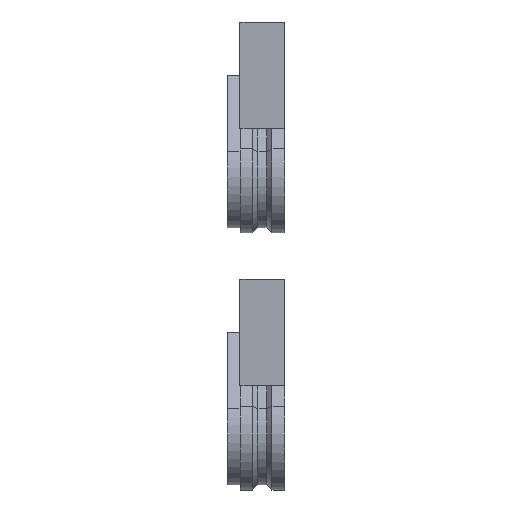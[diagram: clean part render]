
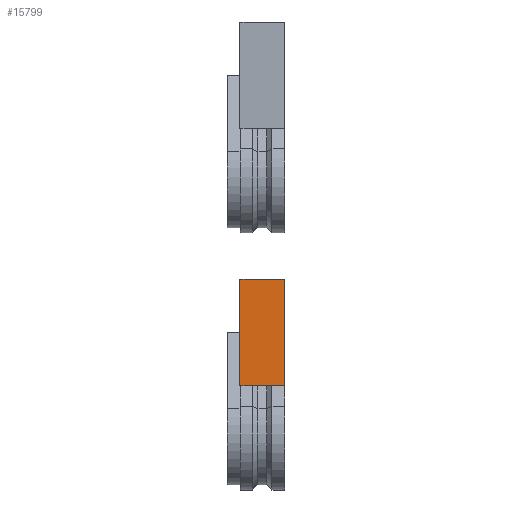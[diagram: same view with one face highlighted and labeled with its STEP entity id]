
A CAD part, left-side view. The second image highlights one B-rep face of the part: STEP entity #15799.
In plain terms, the highlighted planar face has unit normal (-1, 0, 0).
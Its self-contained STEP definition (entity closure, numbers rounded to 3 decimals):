
#11456 = PLANE('',#11457);
#11457 = AXIS2_PLACEMENT_3D('',#11458,#11459,#11460);
#11458 = CARTESIAN_POINT('',(-12.,25.,-12.5));
#11459 = DIRECTION('',(0.,1.,0.));
#11460 = DIRECTION('',(1.,0.,-0.));
#12016 = VERTEX_POINT('',#12017);
#12017 = CARTESIAN_POINT('',(-16.35,25.,-8.748));
#12031 = PLANE('',#12032);
#12032 = AXIS2_PLACEMENT_3D('',#12033,#12034,#12035);
#12033 = CARTESIAN_POINT('',(-16.35,25.,-8.748));
#12034 = DIRECTION('',(0.,0.,1.));
#12035 = DIRECTION('',(1.,0.,-0.));
#12043 = EDGE_CURVE('',#12044,#12016,#12046,.T.);
#12044 = VERTEX_POINT('',#12045);
#12045 = CARTESIAN_POINT('',(-16.35,25.,-0.448));
#12046 = SURFACE_CURVE('',#12047,(#12051,#12058),.PCURVE_S1.);
#12047 = LINE('',#12048,#12049);
#12048 = CARTESIAN_POINT('',(-16.35,25.,-0.448));
#12049 = VECTOR('',#12050,1.);
#12050 = DIRECTION('',(0.,0.,-1.));
#12051 = PCURVE('',#11456,#12052);
#12052 = DEFINITIONAL_REPRESENTATION('',(#12053),#12057);
#12053 = LINE('',#12054,#12055);
#12054 = CARTESIAN_POINT('',(-4.35,-12.052));
#12055 = VECTOR('',#12056,1.);
#12056 = DIRECTION('',(0.,1.));
#12057 = ( GEOMETRIC_REPRESENTATION_CONTEXT(2) 
PARAMETRIC_REPRESENTATION_CONTEXT() REPRESENTATION_CONTEXT('2D SPACE',''
  ) );
#12058 = PCURVE('',#12059,#12064);
#12059 = PLANE('',#12060);
#12060 = AXIS2_PLACEMENT_3D('',#12061,#12062,#12063);
#12061 = CARTESIAN_POINT('',(-16.35,25.,-8.748));
#12062 = DIRECTION('',(1.,0.,-0.));
#12063 = DIRECTION('',(0.,0.,1.));
#12064 = DEFINITIONAL_REPRESENTATION('',(#12065),#12069);
#12065 = LINE('',#12066,#12067);
#12066 = CARTESIAN_POINT('',(8.3,0.));
#12067 = VECTOR('',#12068,1.);
#12068 = DIRECTION('',(-1.,0.));
#12069 = ( GEOMETRIC_REPRESENTATION_CONTEXT(2) 
PARAMETRIC_REPRESENTATION_CONTEXT() REPRESENTATION_CONTEXT('2D SPACE',''
  ) );
#12087 = PLANE('',#12088);
#12088 = AXIS2_PLACEMENT_3D('',#12089,#12090,#12091);
#12089 = CARTESIAN_POINT('',(-16.35,25.,-0.448));
#12090 = DIRECTION('',(0.,0.,1.));
#12091 = DIRECTION('',(1.,0.,-0.));
#12174 = PLANE('',#12175);
#12175 = AXIS2_PLACEMENT_3D('',#12176,#12177,#12178);
#12176 = CARTESIAN_POINT('',(-9.85,28.5,-8.748));
#12177 = DIRECTION('',(-0.,1.,0.));
#12178 = DIRECTION('',(0.,0.,1.));
#13186 = VERTEX_POINT('',#13187);
#13187 = CARTESIAN_POINT('',(-16.35,28.5,-8.748));
#13208 = EDGE_CURVE('',#13186,#13209,#13211,.T.);
#13209 = VERTEX_POINT('',#13210);
#13210 = CARTESIAN_POINT('',(-16.35,28.5,-0.448));
#13211 = SURFACE_CURVE('',#13212,(#13216,#13223),.PCURVE_S1.);
#13212 = LINE('',#13213,#13214);
#13213 = CARTESIAN_POINT('',(-16.35,28.5,-8.748));
#13214 = VECTOR('',#13215,1.);
#13215 = DIRECTION('',(0.,0.,1.));
#13216 = PCURVE('',#12174,#13217);
#13217 = DEFINITIONAL_REPRESENTATION('',(#13218),#13222);
#13218 = LINE('',#13219,#13220);
#13219 = CARTESIAN_POINT('',(0.,-6.5));
#13220 = VECTOR('',#13221,1.);
#13221 = DIRECTION('',(1.,0.));
#13222 = ( GEOMETRIC_REPRESENTATION_CONTEXT(2) 
PARAMETRIC_REPRESENTATION_CONTEXT() REPRESENTATION_CONTEXT('2D SPACE',''
  ) );
#13223 = PCURVE('',#12059,#13224);
#13224 = DEFINITIONAL_REPRESENTATION('',(#13225),#13229);
#13225 = LINE('',#13226,#13227);
#13226 = CARTESIAN_POINT('',(0.,-3.5));
#13227 = VECTOR('',#13228,1.);
#13228 = DIRECTION('',(1.,0.));
#13229 = ( GEOMETRIC_REPRESENTATION_CONTEXT(2) 
PARAMETRIC_REPRESENTATION_CONTEXT() REPRESENTATION_CONTEXT('2D SPACE',''
  ) );
#15776 = EDGE_CURVE('',#12044,#13209,#15777,.T.);
#15777 = SURFACE_CURVE('',#15778,(#15782,#15789),.PCURVE_S1.);
#15778 = LINE('',#15779,#15780);
#15779 = CARTESIAN_POINT('',(-16.35,25.,-0.448));
#15780 = VECTOR('',#15781,1.);
#15781 = DIRECTION('',(-0.,1.,0.));
#15782 = PCURVE('',#12087,#15783);
#15783 = DEFINITIONAL_REPRESENTATION('',(#15784),#15788);
#15784 = LINE('',#15785,#15786);
#15785 = CARTESIAN_POINT('',(0.,0.));
#15786 = VECTOR('',#15787,1.);
#15787 = DIRECTION('',(0.,1.));
#15788 = ( GEOMETRIC_REPRESENTATION_CONTEXT(2) 
PARAMETRIC_REPRESENTATION_CONTEXT() REPRESENTATION_CONTEXT('2D SPACE',''
  ) );
#15789 = PCURVE('',#12059,#15790);
#15790 = DEFINITIONAL_REPRESENTATION('',(#15791),#15795);
#15791 = LINE('',#15792,#15793);
#15792 = CARTESIAN_POINT('',(8.3,0.));
#15793 = VECTOR('',#15794,1.);
#15794 = DIRECTION('',(0.,-1.));
#15795 = ( GEOMETRIC_REPRESENTATION_CONTEXT(2) 
PARAMETRIC_REPRESENTATION_CONTEXT() REPRESENTATION_CONTEXT('2D SPACE',''
  ) );
#15799 = ADVANCED_FACE('',(#15800),#12059,.F.);
#15800 = FACE_BOUND('',#15801,.F.);
#15801 = EDGE_LOOP('',(#15802,#15823,#15824,#15825));
#15802 = ORIENTED_EDGE('',*,*,#15803,.T.);
#15803 = EDGE_CURVE('',#12016,#13186,#15804,.T.);
#15804 = SURFACE_CURVE('',#15805,(#15809,#15816),.PCURVE_S1.);
#15805 = LINE('',#15806,#15807);
#15806 = CARTESIAN_POINT('',(-16.35,25.,-8.748));
#15807 = VECTOR('',#15808,1.);
#15808 = DIRECTION('',(-0.,1.,0.));
#15809 = PCURVE('',#12059,#15810);
#15810 = DEFINITIONAL_REPRESENTATION('',(#15811),#15815);
#15811 = LINE('',#15812,#15813);
#15812 = CARTESIAN_POINT('',(0.,0.));
#15813 = VECTOR('',#15814,1.);
#15814 = DIRECTION('',(0.,-1.));
#15815 = ( GEOMETRIC_REPRESENTATION_CONTEXT(2) 
PARAMETRIC_REPRESENTATION_CONTEXT() REPRESENTATION_CONTEXT('2D SPACE',''
  ) );
#15816 = PCURVE('',#12031,#15817);
#15817 = DEFINITIONAL_REPRESENTATION('',(#15818),#15822);
#15818 = LINE('',#15819,#15820);
#15819 = CARTESIAN_POINT('',(0.,0.));
#15820 = VECTOR('',#15821,1.);
#15821 = DIRECTION('',(0.,1.));
#15822 = ( GEOMETRIC_REPRESENTATION_CONTEXT(2) 
PARAMETRIC_REPRESENTATION_CONTEXT() REPRESENTATION_CONTEXT('2D SPACE',''
  ) );
#15823 = ORIENTED_EDGE('',*,*,#13208,.T.);
#15824 = ORIENTED_EDGE('',*,*,#15776,.F.);
#15825 = ORIENTED_EDGE('',*,*,#12043,.T.);
